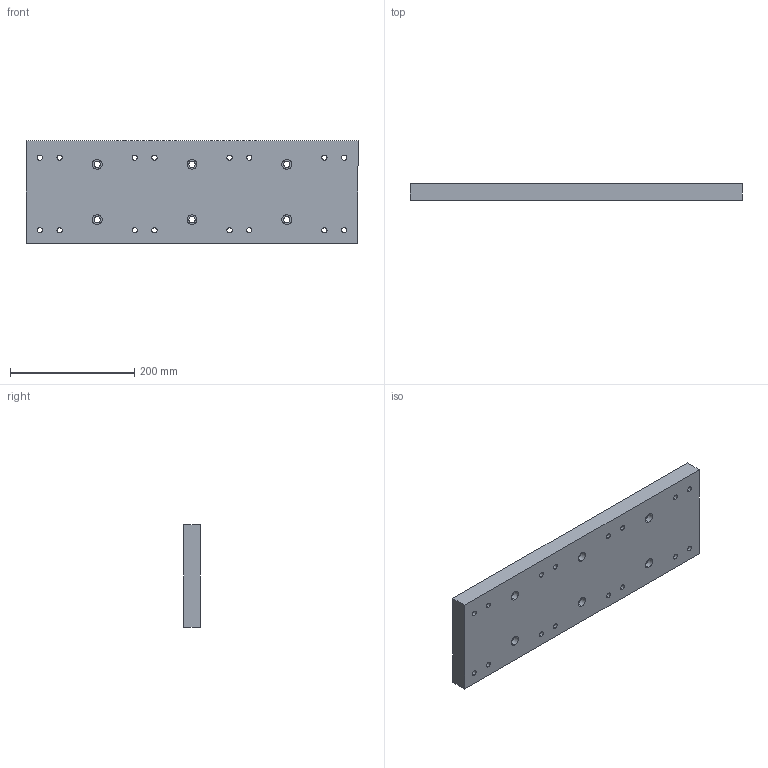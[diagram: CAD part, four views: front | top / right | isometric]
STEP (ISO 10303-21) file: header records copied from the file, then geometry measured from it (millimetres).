
FILE_DESCRIPTION (( 'STEP AP203' ), '1' );
FILE_NAME ('269-18-112.STEP', '2020-03-02T21:36:25', ( '' ), ( '' ), 'SwSTEP 2.0', 'SolidWorks 2017', '' );
FILE_SCHEMA (( 'CONFIG_CONTROL_DESIGN' ));
Length unit declared in the file: inch
Products named in the file (1): 269-18-112
Bounding box: 533.4 x 26.92 x 165.1 mm (x, y, z)
Volume: 2316263.4 mm3; surface area: 230585.5 mm2
Topology: 1 solids, 1 shells, 116 faces, 276 edges, 184 vertices
Faces by surface type: cylinder 88, plane 28
Entity records: 3623 total; most frequent: DIRECTION 686, CARTESIAN_POINT 577, ORIENTED_EDGE 552, AXIS2_PLACEMENT_3D 293, EDGE_CURVE 276, VERTEX_POINT 184, EDGE_LOOP 182, CIRCLE 176
